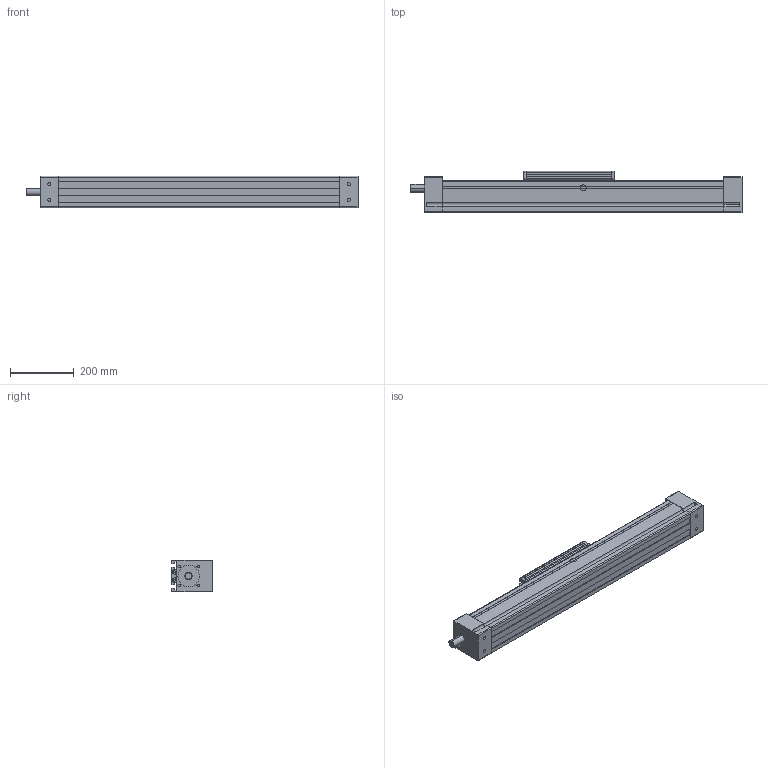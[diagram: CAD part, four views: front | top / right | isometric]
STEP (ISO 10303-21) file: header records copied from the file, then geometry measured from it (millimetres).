
FILE_DESCRIPTION (( 'STEP AP214' ), '1' );
FILE_NAME ('QSTK-100.STEP', '2016-01-14T11:23:45', ( 'admin' ), ( '' ), 'SwSTEP 2.0', 'SolidWorks 2015', '' );
FILE_SCHEMA (( 'AUTOMOTIVE_DESIGN' ));
Length unit declared in the file: millimetre
Products named in the file (5): QSTK-100; Kopie von Bahr-QST-QSK-QST-100   1  0 0  0 0  0 0  910_End Block QST (1)^QST(K)100 S0 A0_QSTK 100-1; Kopie von Bahr-QST-QSK-QST-100   1  0 0  0 0  0 0  910_End Block QST (2)^QST(K)100 S0 A0_QSTK 100-0; Kopie von Bahr-QST-QSK-QST-100   1  0 0  0 0  0 0  910_100 Carriage^QST(K)100 S0 A0_0; Kopie von Bahr-QST-QSK-QST-100   1  0 0  0 0  0 0  910_100 Extrusion^QST(K)100 S0 A0
Assembly tree (4 placements, depth 2):
  QSTK-100
    Kopie von Bahr-QST-QSK-QST-100   1  0 0  0 0  0 0  910_End Block QST (1)^QST(K)100 S0 A0_QSTK 100-1
    Kopie von Bahr-QST-QSK-QST-100   1  0 0  0 0  0 0  910_End Block QST (2)^QST(K)100 S0 A0_QSTK 100-0
    Kopie von Bahr-QST-QSK-QST-100   1  0 0  0 0  0 0  910_100 Carriage^QST(K)100 S0 A0_0
    Kopie von Bahr-QST-QSK-QST-100   1  0 0  0 0  0 0  910_100 Extrusion^QST(K)100 S0 A0
Bounding box: 1045 x 129 x 100.2 mm (x, y, z)
Volume: 10274402.6 mm3; surface area: 657543.6 mm2
Topology: 8 solids, 8 shells, 306 faces, 768 edges, 506 vertices
Faces by surface type: plane 196, cylinder 100, torus 8, cone 2
Entity records: 9602 total; most frequent: CARTESIAN_POINT 1650, DIRECTION 1598, ORIENTED_EDGE 1536, EDGE_CURVE 768, LINE 558, VECTOR 558, AXIS2_PLACEMENT_3D 520, VERTEX_POINT 506
